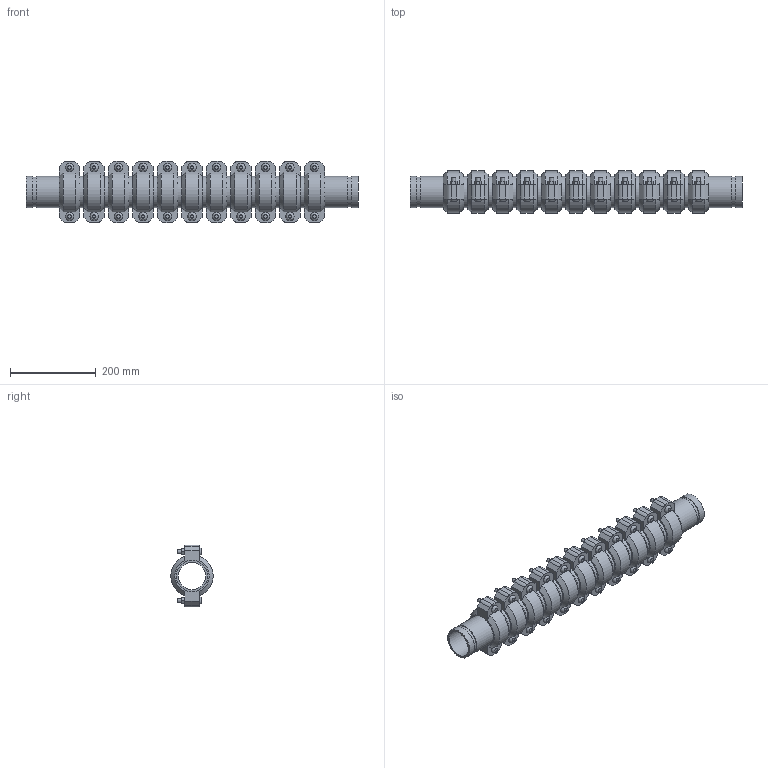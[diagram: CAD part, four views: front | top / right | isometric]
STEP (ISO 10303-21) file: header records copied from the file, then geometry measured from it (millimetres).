
FILE_DESCRIPTION(/* description */ ('VIC EXPANSION JOINT 11 COUPLINGS COMPRESSED STYLE 155 (OGS)','CAx-IF Rec.Pracs.---Representation and Presentation of Product Manufacturing Information (PMI)---4.0---2014-10-13'),/* implementation_level */ '2;1');
FILE_NAME(/* name */ 'C:\Users\kkamble\AppData\Roaming\Autodesk\ApplicationPlugins\Victaulic.Temp\A956\Victaulic_IPS_Expansion Joint_Compressed_11 Couplings_Style 155 (OGS)_2.5 (65).stp',/* time_stamp */ '2021-06-27T00:18:48+02:00',/* author */ ('kkamble'),/* organization */ ('Victaulic'),/* preprocessor_version */ 'ST-DEVELOPER v17.2',/* originating_system */ 'Autodesk Inventor 2019',/* authorisation */ '');
FILE_SCHEMA (('AP242_MANAGED_MODEL_BASED_3D_ENGINEERING_MIM_LF { 1 0 10303 442 1 1 4 }'));
Length unit declared in the file: inch
Products named in the file (4): 155-02.5; Nipple-02.5; Nipple-02.5_1; 075-02.5
Assembly tree (23 placements, depth 2):
  155-02.5
    Nipple-02.5  x2
    Nipple-02.5_1  x10
    075-02.5  x11
Bounding box: 774.7 x 98.22 x 144.27 mm (x, y, z)
Volume: 3069336 mm3; surface area: 844822.9 mm2
Topology: 23 solids, 45 shells, 727 faces, 1757 edges, 1234 vertices
Faces by surface type: plane 446, cylinder 215, cone 44, bspline 22
Full cylindrical faces by diameter (mm): 9.525 x44, 11.43 x22, 63.475 x12, 69.088 x24, 73.025 x47
Entity records: 2803 total; most frequent: CARTESIAN_POINT 493, DIRECTION 471, ORIENTED_EDGE 374, AXIS2_PLACEMENT_3D 190, EDGE_CURVE 187, VERTEX_POINT 134, EDGE_LOOP 101, LINE 91
